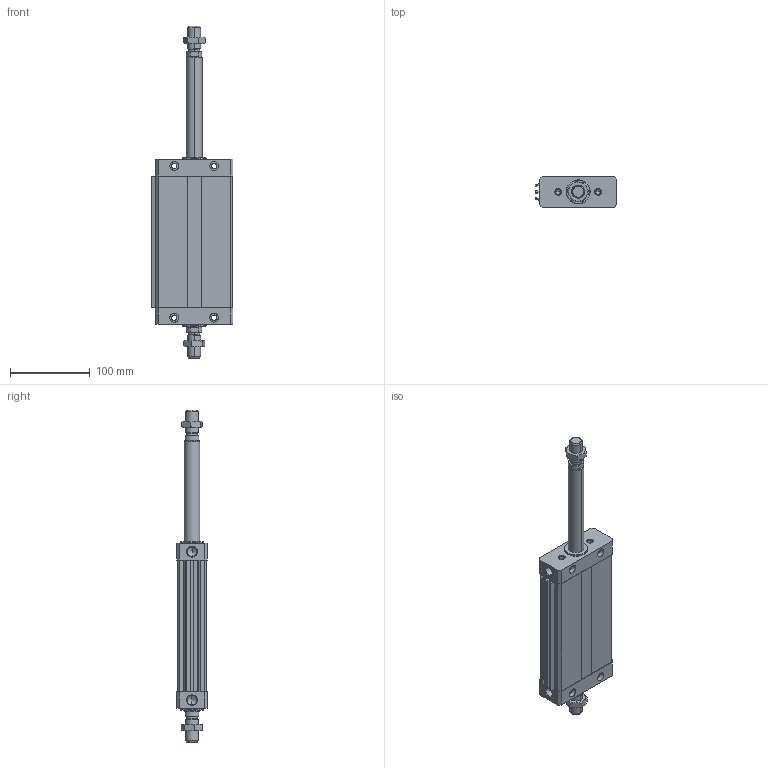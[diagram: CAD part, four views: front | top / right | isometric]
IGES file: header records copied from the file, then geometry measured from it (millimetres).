
Global section: file name: No Iges File Name specified; native system: Autodesk Inventor 2011; preprocessor: AutoDesk Inventor Iges Exporter R2011; author: airolcr1; date: 20101213.153342; units: millimetre
Bounding box: 102.5 x 38 x 416 mm (x, y, z)
Volume: 582478.7 mm3; surface area: 158544.2 mm2
Topology: 6 solids, 6 shells, 280 faces, 664 edges, 396 vertices
Faces by surface type: bspline 114, plane 98, cone 36, cylinder 18, revolution 14
